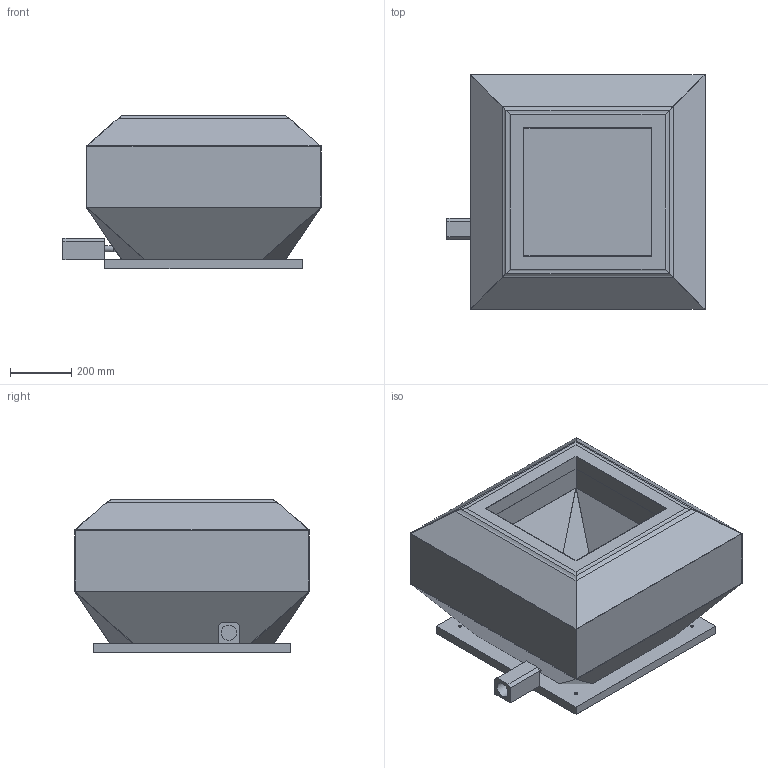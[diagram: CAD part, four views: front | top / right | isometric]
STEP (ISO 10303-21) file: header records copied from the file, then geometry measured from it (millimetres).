
FILE_DESCRIPTION(/* description */ (''),/* implementation_level */ '2;1');
FILE_NAME(/* name */ 'Z:\Output\VDD 400-6-07343-001.stp',/* time_stamp */ '2017-05-05T17:38:10+02:00',/* author */ ('engineering1'),/* organization */ (''),/* preprocessor_version */ 'ST-DEVELOPER v16.5',/* originating_system */ 'Autodesk Inventor 2017',/* authorisation */ '');
FILE_SCHEMA (('AUTOMOTIVE_DESIGN { 1 0 10303 214 3 1 1 }'));
Length unit declared in the file: millimetre
Products named in the file (1): VD-1
Bounding box: 841 x 765 x 500 mm (x, y, z)
Volume: 5301931.2 mm3; surface area: 4479966 mm2
Topology: 1 solids, 1 shells, 82 faces, 190 edges, 114 vertices
Faces by surface type: plane 69, cylinder 10, bspline 3
Full cylindrical faces by diameter (mm): 8 x1, 12 x4, 20 x3, 50 x1
Entity records: 2393 total; most frequent: CARTESIAN_POINT 556, DIRECTION 355, ORIENTED_EDGE 352, EDGE_CURVE 175, LINE 151, VECTOR 151, VERTEX_POINT 112, EDGE_LOOP 110
